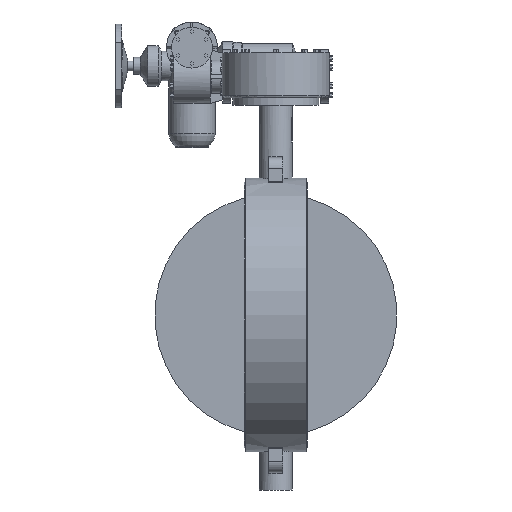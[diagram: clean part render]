
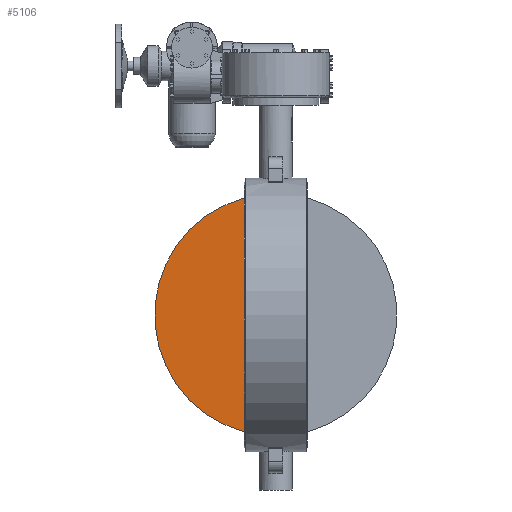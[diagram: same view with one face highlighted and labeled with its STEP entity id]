
A CAD part, front view. The second image highlights one B-rep face of the part: STEP entity #5106.
In plain terms, the highlighted planar face has unit normal (0, -1, 0).
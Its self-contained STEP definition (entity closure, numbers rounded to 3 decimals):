
#5106=ADVANCED_FACE('',(#9504),#9506,.T.);
#9504=FACE_BOUND('',#9505,.T.);
#9505=EDGE_LOOP('',(#12270,#12271));
#9506=PLANE('',#9507);
#9507=AXIS2_PLACEMENT_3D('',#9508,#9509,#9510);
#9508=CARTESIAN_POINT('',(0.,-10.,0.));
#9509=DIRECTION('',(0.,-1.,0.));
#9510=DIRECTION('',(0.,0.,1.));
#12270=ORIENTED_EDGE('',*,*,#13645,.T.);
#12271=ORIENTED_EDGE('',*,*,#13651,.T.);
#13645=EDGE_CURVE('',#15970,#15967,#15971,.F.);
#13651=EDGE_CURVE('',#15967,#15970,#15978,.T.);
#15967=VERTEX_POINT('',#25013);
#15970=VERTEX_POINT('',#25058);
#15971=LINE('',#25059,#25060);
#15978=CIRCLE('',#25121,296.25);
#25013=CARTESIAN_POINT('',(-28.284,-10.,294.897));
#25058=CARTESIAN_POINT('',(-28.284,-10.,-294.897));
#25059=CARTESIAN_POINT('',(-28.284,-10.,294.897));
#25060=VECTOR('',#25061,1.);
#25061=DIRECTION('',(0.,0.,-1.));
#25121=AXIS2_PLACEMENT_3D('',#25122,#25123,#25124);
#25122=CARTESIAN_POINT('',(0.,-10.,0.));
#25123=DIRECTION('',(0.,-1.,0.));
#25124=DIRECTION('',(-0.095,0.,0.995));
